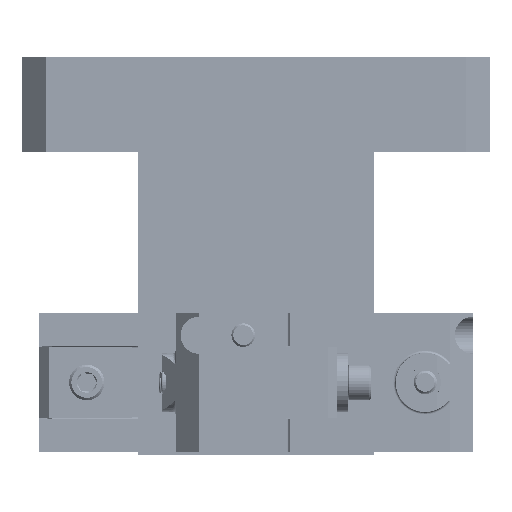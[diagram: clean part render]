
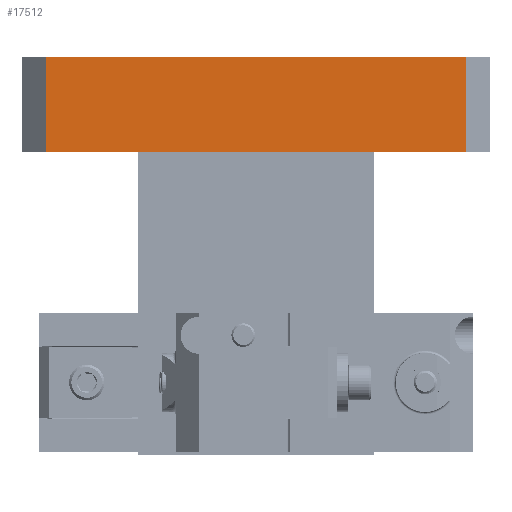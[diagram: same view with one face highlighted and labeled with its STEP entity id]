
A CAD part, front view. The second image highlights one B-rep face of the part: STEP entity #17512.
In plain terms, the highlighted planar face has unit normal (0, -1, 0).
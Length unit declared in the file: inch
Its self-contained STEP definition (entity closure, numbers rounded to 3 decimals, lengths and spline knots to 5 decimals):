
#4025 = VERTEX_POINT ( 'NONE', #57852 ) ;
#7496 = B_SPLINE_CURVE_WITH_KNOTS ( 'NONE', 3,
 ( #59066, #23366, #29374, #41212 ),
 .UNSPECIFIED., .F., .F.,
 ( 4, 4 ),
 ( 0., 1. ),
 .UNSPECIFIED. ) ;
#7855 = DIRECTION ( 'NONE',  ( -1., 0., 0. ) ) ;
#9295 = CARTESIAN_POINT ( 'NONE',  ( 2.225, -4.78, 2.25 ) ) ;
#9686 = AXIS2_PLACEMENT_3D ( 'NONE', #59294, #23607, #65293 ) ;
#14686 = EDGE_CURVE ( 'NONE', #20892, #4025, #61097, .T. ) ;
#16180 = LINE ( 'NONE', #43473, #63732 ) ;
#17206 = ORIENTED_EDGE ( 'NONE', *, *, #69433, .F. ) ;
#17512 = ADVANCED_FACE ( 'NONE', ( #33109 ), #41308, .T. ) ;
#18648 = ORIENTED_EDGE ( 'NONE', *, *, #14686, .T. ) ;
#20892 = VERTEX_POINT ( 'NONE', #59643 ) ;
#23366 = CARTESIAN_POINT ( 'NONE',  ( -2.225, -4.78, 2.91667 ) ) ;
#23607 = DIRECTION ( 'NONE',  ( 0., -1., 0. ) ) ;
#26307 = B_SPLINE_CURVE_WITH_KNOTS ( 'NONE', 3,
 ( #74387, #50372, #44934, #9295 ),
 .UNSPECIFIED., .F., .F.,
 ( 4, 4 ),
 ( 0., 1. ),
 .UNSPECIFIED. ) ;
#27567 = VECTOR ( 'NONE', #59182, 39.37008 ) ;
#29374 = CARTESIAN_POINT ( 'NONE',  ( -2.225, -4.78, 2.58333 ) ) ;
#33109 = FACE_OUTER_BOUND ( 'NONE', #54309, .T. ) ;
#34617 = ORIENTED_EDGE ( 'NONE', *, *, #76319, .T. ) ;
#41212 = CARTESIAN_POINT ( 'NONE',  ( -2.225, -4.78, 2.25 ) ) ;
#41308 = PLANE ( 'NONE',  #9686 ) ;
#42479 = EDGE_CURVE ( 'NONE', #73128, #20892, #7496, .T. ) ;
#43473 = CARTESIAN_POINT ( 'NONE',  ( 2.225, -4.78, 3.25 ) ) ;
#44934 = CARTESIAN_POINT ( 'NONE',  ( 2.225, -4.78, 2.58333 ) ) ;
#50372 = CARTESIAN_POINT ( 'NONE',  ( 2.225, -4.78, 2.91667 ) ) ;
#54309 = EDGE_LOOP ( 'NONE', ( #34617, #56787, #18648, #17206 ) ) ;
#56787 = ORIENTED_EDGE ( 'NONE', *, *, #42479, .T. ) ;
#57852 = CARTESIAN_POINT ( 'NONE',  ( 2.225, -4.78, 2.25 ) ) ;
#59066 = CARTESIAN_POINT ( 'NONE',  ( -2.225, -4.78, 3.25 ) ) ;
#59182 = DIRECTION ( 'NONE',  ( 1., 0., 0. ) ) ;
#59294 = CARTESIAN_POINT ( 'NONE',  ( -2.225, -4.78, 3.25 ) ) ;
#59643 = CARTESIAN_POINT ( 'NONE',  ( -2.225, -4.78, 2.25 ) ) ;
#61097 = LINE ( 'NONE', #68705, #27567 ) ;
#63732 = VECTOR ( 'NONE', #7855, 39.37008 ) ;
#65293 = DIRECTION ( 'NONE',  ( 0., 0., -1. ) ) ;
#68705 = CARTESIAN_POINT ( 'NONE',  ( -2.225, -4.78, 2.25 ) ) ;
#69433 = EDGE_CURVE ( 'NONE', #75279, #4025, #26307, .T. ) ;
#72881 = CARTESIAN_POINT ( 'NONE',  ( 2.225, -4.78, 3.25 ) ) ;
#73128 = VERTEX_POINT ( 'NONE', #75349 ) ;
#74387 = CARTESIAN_POINT ( 'NONE',  ( 2.225, -4.78, 3.25 ) ) ;
#75279 = VERTEX_POINT ( 'NONE', #72881 ) ;
#75349 = CARTESIAN_POINT ( 'NONE',  ( -2.225, -4.78, 3.25 ) ) ;
#76319 = EDGE_CURVE ( 'NONE', #75279, #73128, #16180, .T. ) ;
